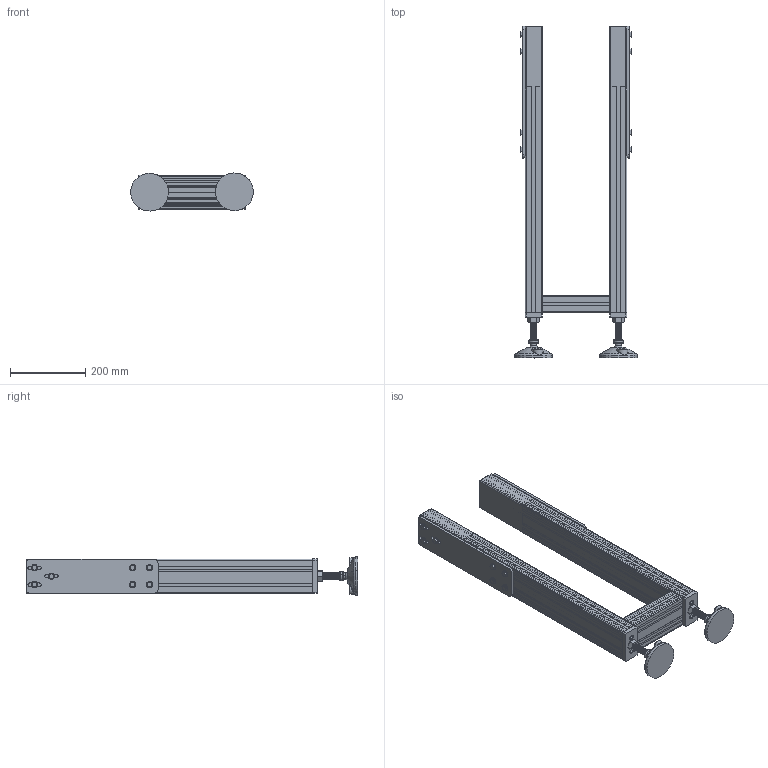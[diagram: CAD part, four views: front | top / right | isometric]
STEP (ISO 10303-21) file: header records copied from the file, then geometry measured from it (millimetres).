
FILE_DESCRIPTION (( 'STEP AP214' ), '1' );
FILE_NAME ('2000.1000.KP.STEP', '2021-03-25T11:08:11', ( 'Localadmin' ), ( 'Microsoft' ), 'SwSTEP 2.0', 'SolidWorks 2018', '' );
FILE_SCHEMA (( 'AUTOMOTIVE_DESIGN' ));
Length unit declared in the file: millimetre
Products named in the file (13): 084.709.002_084.709.002; 084.000.A07_CON PIEDE 084.402.005; 084.301.000 VITI ALUSIC_084.301.003; DADI ESAGONALI NORMALI UNI 5588_M16 UNI 5588; 084.402.005; 084.405.001; 2000.1200.001.GAMBE_Default<A macchina>; 2000.1000.KP; 084.000.A05_CON GIUNTI; VITI TE UNI 5739_M8x20 UNI 5739; RONDELLE UNI 6592_8.4x17 UNI 6592; 084.302.000 DADI ALUSIC 13x13-1_084.302.004
Assembly tree (46 placements, depth 3):
  2000.1000.KP
    2000.1200.001.GAMBE_Default<A macchina>
    084.000.A07_CON PIEDE 084.402.005  x2
      084.405.001
      084.402.005
      DADI ESAGONALI NORMALI UNI 5588_M16 UNI 5588
      084.301.000 VITI ALUSIC_084.301.003
    084.000.A05_CON GIUNTI
      084.709.002_084.709.002
      084.302.000 DADI ALUSIC 13x13-1_084.302.004  x2
      RONDELLE UNI 6592_8.4x17 UNI 6592  x6
      VITI TE UNI 5739_M8x20 UNI 5739  x7
    084.000.A05_CON GIUNTI
      084.709.002_084.709.002
      084.302.000 DADI ALUSIC 13x13-1_084.302.004  x3
      RONDELLE UNI 6592_8.4x17 UNI 6592  x7
      VITI TE UNI 5739_M8x20 UNI 5739  x7
    084.301.000 VITI ALUSIC_084.301.003
    084.302.000 DADI ALUSIC 13x13-1_084.302.004
Bounding box: 324.97 x 880 x 101.06 mm (x, y, z)
Volume: 3831109.8 mm3; surface area: 2977771.2 mm2
Topology: 54 solids, 54 shells, 2229 faces, 5909 edges, 3820 vertices
Faces by surface type: cylinder 953, plane 902, cone 170, torus 140, bspline 64
Entity records: 55631 total; most frequent: CARTESIAN_POINT 20417, ORIENTED_EDGE 7502, DIRECTION 7081, EDGE_CURVE 3751, VERTEX_POINT 2463, AXIS2_PLACEMENT_3D 2375, LINE 2331, VECTOR 2331
